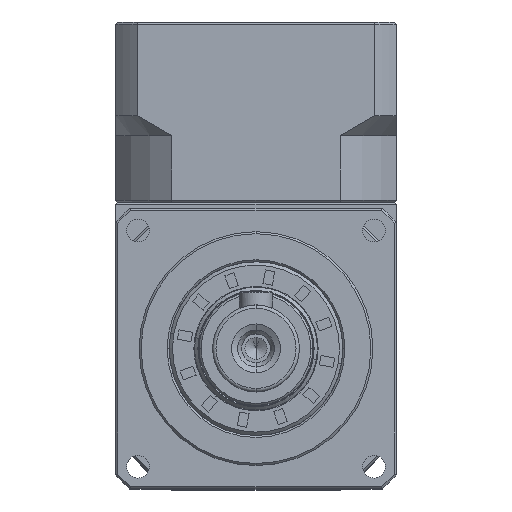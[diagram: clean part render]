
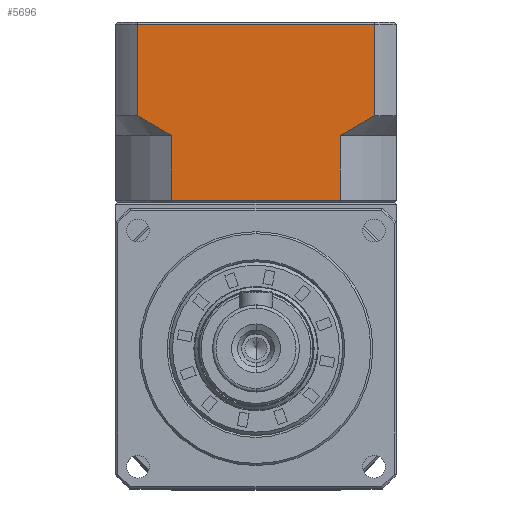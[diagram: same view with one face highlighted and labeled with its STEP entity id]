
A CAD part, top view. The second image highlights one B-rep face of the part: STEP entity #5696.
In plain terms, the highlighted planar face has unit normal (0, 0, 1).
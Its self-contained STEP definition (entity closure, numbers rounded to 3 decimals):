
#421 = FACE_OUTER_BOUND ( 'NONE', #3583, .T. ) ;
#2643 = CARTESIAN_POINT ( 'NONE',  ( 50.188, 63.49, 11.539 ) ) ;
#3583 = EDGE_LOOP ( 'NONE', ( #30743, #83120, #64375, #14209, #18588, #69609, #83733, #34571 ) ) ;
#5696 = ADVANCED_FACE ( 'NONE', ( #421 ), #30784, .T. ) ;
#6778 = CARTESIAN_POINT ( 'NONE',  ( 55.323, 66.49, 11.539 ) ) ;
#6868 = CARTESIAN_POINT ( 'NONE',  ( 23.184, 64.399, 11.539 ) ) ;
#8881 = VERTEX_POINT ( 'NONE', #21118 ) ;
#13159 = CARTESIAN_POINT ( 'NONE',  ( 24.949, 53.79, 11.539 ) ) ;
#14209 = ORIENTED_EDGE ( 'NONE', *, *, #18718, .F. ) ;
#14271 = CARTESIAN_POINT ( 'NONE',  ( 58.568, 53.79, 11.539 ) ) ;
#15098 = VERTEX_POINT ( 'NONE', #66803 ) ;
#15480 = VECTOR ( 'NONE', #41394, 1000. ) ;
#16242 = DIRECTION ( 'NONE',  ( 0., 0., 1. ) ) ;
#18588 = ORIENTED_EDGE ( 'NONE', *, *, #90726, .F. ) ;
#18718 = EDGE_CURVE ( 'NONE', #45151, #80624, #39304, .T. ) ;
#19649 = VECTOR ( 'NONE', #21990, 1000. ) ;
#21118 = CARTESIAN_POINT ( 'NONE',  ( 19.813, 80.19, 11.539 ) ) ;
#21990 = DIRECTION ( 'NONE',  ( -1., 0., 0. ) ) ;
#23500 = EDGE_CURVE ( 'NONE', #94296, #80175, #90671, .T. ) ;
#23635 = VERTEX_POINT ( 'NONE', #24203 ) ;
#24203 = CARTESIAN_POINT ( 'NONE',  ( 55.323, 80.19, 11.539 ) ) ;
#25198 = DIRECTION ( 'NONE',  ( 0., 1., 0. ) ) ;
#27275 = AXIS2_PLACEMENT_3D ( 'NONE', #60560, #16242, #67963 ) ;
#27838 = EDGE_CURVE ( 'NONE', #23635, #8881, #42618, .T. ) ;
#28636 = VECTOR ( 'NONE', #39022, 1000. ) ;
#30700 = B_SPLINE_CURVE_WITH_KNOTS ( 'NONE', 3,
 ( #73092, #50499, #6868, #58584 ),
 .UNSPECIFIED., .F., .F.,
 ( 4, 4 ),
 ( 0., 0.006 ),
 .UNSPECIFIED. ) ;
#30743 = ORIENTED_EDGE ( 'NONE', *, *, #48445, .T. ) ;
#30784 = PLANE ( 'NONE',  #27275 ) ;
#31587 = CARTESIAN_POINT ( 'NONE',  ( 24.949, 53.49, 11.539 ) ) ;
#33416 = CARTESIAN_POINT ( 'NONE',  ( 50.188, 53.79, 11.539 ) ) ;
#34571 = ORIENTED_EDGE ( 'NONE', *, *, #27838, .T. ) ;
#35480 = CARTESIAN_POINT ( 'NONE',  ( 24.949, 63.49, 11.539 ) ) ;
#37525 = LINE ( 'NONE', #62066, #54848 ) ;
#39022 = DIRECTION ( 'NONE',  ( 0., -1., 0. ) ) ;
#39304 = LINE ( 'NONE', #14271, #19649 ) ;
#41053 = CARTESIAN_POINT ( 'NONE',  ( 19.813, 53.49, 11.539 ) ) ;
#41394 = DIRECTION ( 'NONE',  ( 0., -1., 0. ) ) ;
#41859 = EDGE_CURVE ( 'NONE', #80175, #23635, #37525, .T. ) ;
#42035 = CARTESIAN_POINT ( 'NONE',  ( 50.188, 33.326, 11.539 ) ) ;
#42618 = LINE ( 'NONE', #74877, #77258 ) ;
#43982 = EDGE_CURVE ( 'NONE', #77863, #80624, #87597, .T. ) ;
#44916 = VECTOR ( 'NONE', #85285, 1000. ) ;
#45151 = VERTEX_POINT ( 'NONE', #33416 ) ;
#48445 = EDGE_CURVE ( 'NONE', #8881, #15098, #81885, .T. ) ;
#49313 = CARTESIAN_POINT ( 'NONE',  ( 55.323, 66.49, 11.539 ) ) ;
#50499 = CARTESIAN_POINT ( 'NONE',  ( 21.48, 65.414, 11.539 ) ) ;
#54848 = VECTOR ( 'NONE', #25198, 1000. ) ;
#55476 = EDGE_CURVE ( 'NONE', #15098, #77863, #30700, .T. ) ;
#57127 = LINE ( 'NONE', #42035, #15480 ) ;
#58584 = CARTESIAN_POINT ( 'NONE',  ( 24.949, 63.49, 11.539 ) ) ;
#60560 = CARTESIAN_POINT ( 'NONE',  ( 58.568, 53.49, 11.539 ) ) ;
#62066 = CARTESIAN_POINT ( 'NONE',  ( 55.323, 53.49, 11.539 ) ) ;
#64375 = ORIENTED_EDGE ( 'NONE', *, *, #43982, .T. ) ;
#66803 = CARTESIAN_POINT ( 'NONE',  ( 19.813, 66.49, 11.539 ) ) ;
#67963 = DIRECTION ( 'NONE',  ( -1., 0., 0. ) ) ;
#69609 = ORIENTED_EDGE ( 'NONE', *, *, #23500, .T. ) ;
#70963 = CARTESIAN_POINT ( 'NONE',  ( 50.188, 63.49, 11.539 ) ) ;
#73092 = CARTESIAN_POINT ( 'NONE',  ( 19.813, 66.49, 11.539 ) ) ;
#74877 = CARTESIAN_POINT ( 'NONE',  ( 58.568, 80.19, 11.539 ) ) ;
#77258 = VECTOR ( 'NONE', #82323, 1000. ) ;
#77863 = VERTEX_POINT ( 'NONE', #35480 ) ;
#80175 = VERTEX_POINT ( 'NONE', #6778 ) ;
#80624 = VERTEX_POINT ( 'NONE', #13159 ) ;
#81885 = LINE ( 'NONE', #41053, #44916 ) ;
#82323 = DIRECTION ( 'NONE',  ( -1., 0., 0. ) ) ;
#83120 = ORIENTED_EDGE ( 'NONE', *, *, #55476, .T. ) ;
#83733 = ORIENTED_EDGE ( 'NONE', *, *, #41859, .T. ) ;
#85285 = DIRECTION ( 'NONE',  ( 0., -1., 0. ) ) ;
#86163 = CARTESIAN_POINT ( 'NONE',  ( 51.953, 64.399, 11.539 ) ) ;
#87597 = LINE ( 'NONE', #31587, #28636 ) ;
#90671 = B_SPLINE_CURVE_WITH_KNOTS ( 'NONE', 3,
 ( #70963, #86163, #93540, #49313 ),
 .UNSPECIFIED., .F., .F.,
 ( 4, 4 ),
 ( 0., 0.006 ),
 .UNSPECIFIED. ) ;
#90726 = EDGE_CURVE ( 'NONE', #94296, #45151, #57127, .T. ) ;
#93540 = CARTESIAN_POINT ( 'NONE',  ( 53.656, 65.414, 11.539 ) ) ;
#94296 = VERTEX_POINT ( 'NONE', #2643 ) ;
